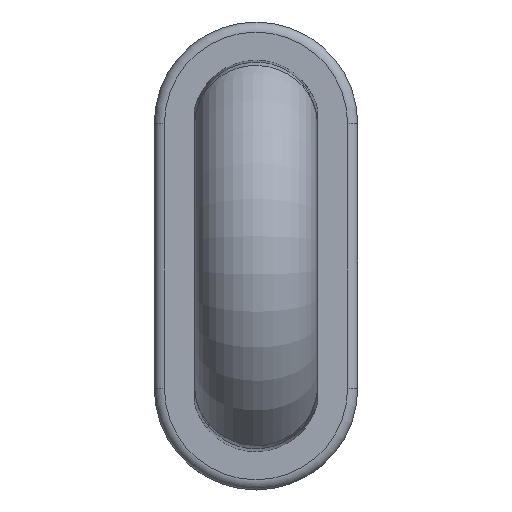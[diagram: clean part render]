
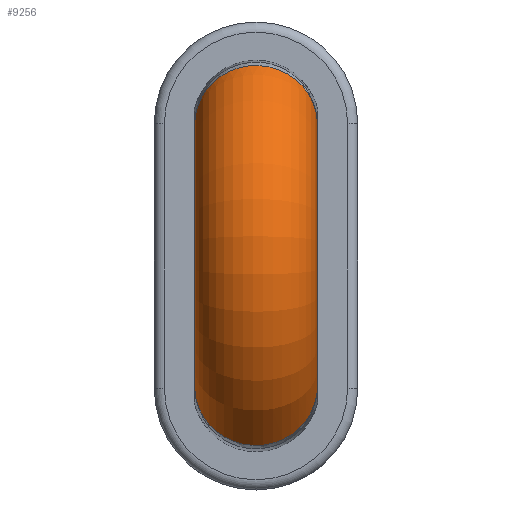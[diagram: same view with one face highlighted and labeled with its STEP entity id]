
A CAD part, top view. The second image highlights one B-rep face of the part: STEP entity #9256.
In plain terms, the highlighted toroidal (fillet/blend) face has major radius 8.2 mm and minor radius 3 mm.
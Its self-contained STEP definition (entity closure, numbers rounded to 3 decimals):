
#8000=CARTESIAN_POINT('',(-21.548,6.212,162.914));
#8142=CARTESIAN_POINT('',(-27.548,6.255,162.899));
#8240=CARTESIAN_POINT('',(-27.548,6.212,162.914));
#8241=CARTESIAN_POINT('',(-27.548,6.217,162.912));
#8242=CARTESIAN_POINT('',(-27.548,6.227,162.909));
#8243=CARTESIAN_POINT('',(-27.548,6.241,162.904));
#8244=CARTESIAN_POINT('',(-27.548,6.25,162.901));
#8245=CARTESIAN_POINT('',(-27.548,6.255,162.899));
#8247=CARTESIAN_POINT('',(-27.548,12.755,157.9));
#8248=DIRECTION('',(-1.,0.,0.));
#8249=DIRECTION('',(0.,-0.793,0.61));
#8250=AXIS2_PLACEMENT_3D('',#8247,#8248,#8249);
#8252=CARTESIAN_POINT('',(-27.548,19.255,162.899));
#8253=CARTESIAN_POINT('',(-27.548,19.26,162.901));
#8254=CARTESIAN_POINT('',(-27.548,19.269,162.904));
#8255=CARTESIAN_POINT('',(-27.548,19.284,162.909));
#8256=CARTESIAN_POINT('',(-27.548,19.293,162.912));
#8257=CARTESIAN_POINT('',(-27.548,19.298,162.914));
#8259=CARTESIAN_POINT('',(-21.548,19.298,162.914));
#8260=CARTESIAN_POINT('',(-21.548,19.293,162.912));
#8261=CARTESIAN_POINT('',(-21.548,19.284,162.909));
#8262=CARTESIAN_POINT('',(-21.548,19.269,162.904));
#8263=CARTESIAN_POINT('',(-21.548,19.26,162.901));
#8264=CARTESIAN_POINT('',(-21.548,19.255,162.899));
#8266=CARTESIAN_POINT('',(-21.548,12.755,157.9));
#8267=DIRECTION('',(1.,0.,0.));
#8268=DIRECTION('',(0.,0.793,0.61));
#8269=AXIS2_PLACEMENT_3D('',#8266,#8267,#8268);
#8271=CARTESIAN_POINT('',(-21.548,6.255,162.899));
#8272=CARTESIAN_POINT('',(-21.548,6.25,162.901));
#8273=CARTESIAN_POINT('',(-21.548,6.241,162.904));
#8274=CARTESIAN_POINT('',(-21.548,6.227,162.909));
#8275=CARTESIAN_POINT('',(-21.548,6.217,162.912));
#8276=CARTESIAN_POINT('',(-21.548,6.212,162.914));
#8278=CARTESIAN_POINT('',(-27.548,6.212,162.914));
#8279=CARTESIAN_POINT('',(-27.546,6.113,162.959));
#8280=CARTESIAN_POINT('',(-27.532,5.917,163.049));
#8281=CARTESIAN_POINT('',(-27.478,5.625,163.179));
#8282=CARTESIAN_POINT('',(-27.391,5.341,163.303));
#8283=CARTESIAN_POINT('',(-27.274,5.065,163.421));
#8284=CARTESIAN_POINT('',(-27.126,4.803,163.531));
#8285=CARTESIAN_POINT('',(-26.951,4.557,163.634));
#8286=CARTESIAN_POINT('',(-26.751,4.328,163.726));
#8287=CARTESIAN_POINT('',(-26.527,4.122,163.81));
#8288=CARTESIAN_POINT('',(-26.283,3.94,163.883));
#8289=CARTESIAN_POINT('',(-26.021,3.781,163.945));
#8290=CARTESIAN_POINT('',(-25.743,3.65,163.997));
#8291=CARTESIAN_POINT('',(-25.454,3.548,164.038));
#8292=CARTESIAN_POINT('',(-25.158,3.473,164.065));
#8293=CARTESIAN_POINT('',(-24.854,3.428,164.082));
#8294=CARTESIAN_POINT('',(-24.548,3.414,164.089));
#8295=CARTESIAN_POINT('',(-24.242,3.429,164.083));
#8296=CARTESIAN_POINT('',(-23.938,3.473,164.065));
#8297=CARTESIAN_POINT('',(-23.641,3.548,164.037));
#8298=CARTESIAN_POINT('',(-23.353,3.651,163.998));
#8299=CARTESIAN_POINT('',(-23.076,3.781,163.945));
#8300=CARTESIAN_POINT('',(-22.813,3.939,163.883));
#8301=CARTESIAN_POINT('',(-22.569,4.122,163.811));
#8302=CARTESIAN_POINT('',(-22.346,4.328,163.727));
#8303=CARTESIAN_POINT('',(-22.145,4.556,163.634));
#8304=CARTESIAN_POINT('',(-21.97,4.803,163.532));
#8305=CARTESIAN_POINT('',(-21.822,5.065,163.421));
#8306=CARTESIAN_POINT('',(-21.705,5.34,163.303));
#8307=CARTESIAN_POINT('',(-21.618,5.625,163.179));
#8308=CARTESIAN_POINT('',(-21.564,5.917,163.049));
#8309=CARTESIAN_POINT('',(-21.55,6.114,162.959));
#8310=CARTESIAN_POINT('',(-21.548,6.212,162.914));
#8312=CARTESIAN_POINT('',(-21.548,19.298,162.914));
#8313=CARTESIAN_POINT('',(-21.55,19.397,162.959));
#8314=CARTESIAN_POINT('',(-21.564,19.593,163.049));
#8315=CARTESIAN_POINT('',(-21.618,19.885,163.179));
#8316=CARTESIAN_POINT('',(-21.705,20.169,163.303));
#8317=CARTESIAN_POINT('',(-21.822,20.445,163.421));
#8318=CARTESIAN_POINT('',(-21.969,20.707,163.531));
#8319=CARTESIAN_POINT('',(-22.145,20.954,163.634));
#8320=CARTESIAN_POINT('',(-22.345,21.182,163.726));
#8321=CARTESIAN_POINT('',(-22.569,21.388,163.81));
#8322=CARTESIAN_POINT('',(-22.813,21.57,163.883));
#8323=CARTESIAN_POINT('',(-23.075,21.729,163.945));
#8324=CARTESIAN_POINT('',(-23.353,21.86,163.997));
#8325=CARTESIAN_POINT('',(-23.642,21.962,164.038));
#8326=CARTESIAN_POINT('',(-23.938,22.037,164.065));
#8327=CARTESIAN_POINT('',(-24.242,22.082,164.082));
#8328=CARTESIAN_POINT('',(-24.548,22.096,164.089));
#8329=CARTESIAN_POINT('',(-24.854,22.081,164.083));
#8330=CARTESIAN_POINT('',(-25.158,22.037,164.065));
#8331=CARTESIAN_POINT('',(-25.455,21.963,164.037));
#8332=CARTESIAN_POINT('',(-25.743,21.859,163.998));
#8333=CARTESIAN_POINT('',(-26.02,21.729,163.945));
#8334=CARTESIAN_POINT('',(-26.283,21.571,163.883));
#8335=CARTESIAN_POINT('',(-26.527,21.388,163.811));
#8336=CARTESIAN_POINT('',(-26.75,21.182,163.727));
#8337=CARTESIAN_POINT('',(-26.951,20.955,163.634));
#8338=CARTESIAN_POINT('',(-27.126,20.707,163.532));
#8339=CARTESIAN_POINT('',(-27.274,20.445,163.421));
#8340=CARTESIAN_POINT('',(-27.391,20.17,163.303));
#8341=CARTESIAN_POINT('',(-27.478,19.885,163.179));
#8342=CARTESIAN_POINT('',(-27.532,19.593,163.049));
#8343=CARTESIAN_POINT('',(-27.546,19.397,162.959));
#8344=CARTESIAN_POINT('',(-27.548,19.298,162.914));
#8559=VERTEX_POINT('',#8142);
#8561=VERTEX_POINT('',#8240);
#8562=VERTEX_POINT('',#8000);
#8563=VERTEX_POINT('',#8271);
#8568=CARTESIAN_POINT('',(-21.548,19.255,162.899));
#8569=VERTEX_POINT('',#8568);
#8577=CARTESIAN_POINT('',(-27.548,19.255,162.899));
#8578=VERTEX_POINT('',#8577);
#8579=VERTEX_POINT('',#8312);
#8580=VERTEX_POINT('',#8344);
#9239=CARTESIAN_POINT('',(-24.548,12.755,157.9));
#9240=DIRECTION('',(-1.,0.,0.));
#9241=DIRECTION('',(0.,-0.855,0.519));
#9242=AXIS2_PLACEMENT_3D('',#9239,#9240,#9241);
#9243=TOROIDAL_SURFACE('',#9242,8.2,3.);
#9245=ORIENTED_EDGE('',*,*,#9244,.F.);
#9246=ORIENTED_EDGE('',*,*,#8891,.T.);
#9247=ORIENTED_EDGE('',*,*,#9115,.T.);
#9248=ORIENTED_EDGE('',*,*,#9050,.T.);
#9250=ORIENTED_EDGE('',*,*,#9249,.F.);
#9251=ORIENTED_EDGE('',*,*,#9046,.T.);
#9252=ORIENTED_EDGE('',*,*,#9100,.T.);
#9253=ORIENTED_EDGE('',*,*,#8895,.T.);
#9254=EDGE_LOOP('',(#9245,#9246,#9247,#9248,#9250,#9251,#9252,#9253));
#9255=FACE_OUTER_BOUND('',#9254,.F.);
#9256=ADVANCED_FACE('',(#9255),#9243,.T.);
#8246=B_SPLINE_CURVE_WITH_KNOTS('',3,(#8240,#8241,#8242,#8243,#8244,#8245),
.UNSPECIFIED.,.F.,.F.,(4,1,1,4),(0.,0.333,0.667,1.),
.UNSPECIFIED.);
#8251=CIRCLE('',#8250,8.2);
#8258=B_SPLINE_CURVE_WITH_KNOTS('',3,(#8252,#8253,#8254,#8255,#8256,#8257),
.UNSPECIFIED.,.F.,.F.,(4,1,1,4),(0.,0.333,0.667,1.),
.UNSPECIFIED.);
#8265=B_SPLINE_CURVE_WITH_KNOTS('',3,(#8259,#8260,#8261,#8262,#8263,#8264),
.UNSPECIFIED.,.F.,.F.,(4,1,1,4),(0.,0.333,0.667,1.),
.UNSPECIFIED.);
#8270=CIRCLE('',#8269,8.2);
#8277=B_SPLINE_CURVE_WITH_KNOTS('',3,(#8271,#8272,#8273,#8274,#8275,#8276),
.UNSPECIFIED.,.F.,.F.,(4,1,1,4),(0.,0.333,0.667,1.),
.UNSPECIFIED.);
#8311=B_SPLINE_CURVE_WITH_KNOTS('',3,(#8278,#8279,#8280,#8281,#8282,#8283,#8284,
#8285,#8286,#8287,#8288,#8289,#8290,#8291,#8292,#8293,#8294,#8295,#8296,#8297,
#8298,#8299,#8300,#8301,#8302,#8303,#8304,#8305,#8306,#8307,#8308,#8309,#8310),
.UNSPECIFIED.,.F.,.F.,(4,1,1,1,1,1,1,1,1,1,1,1,1,1,1,1,1,1,1,1,1,1,1,1,1,1,1,1,
1,1,4),(0.,0.033,0.067,0.1,0.133,
0.167,0.2,0.233,0.267,0.3,
0.333,0.367,0.4,0.433,0.467,
0.5,0.533,0.567,0.6,0.633,
0.667,0.7,0.733,0.767,0.8,
0.833,0.867,0.9,0.933,0.967,
1.),.UNSPECIFIED.);
#8345=B_SPLINE_CURVE_WITH_KNOTS('',3,(#8312,#8313,#8314,#8315,#8316,#8317,#8318,
#8319,#8320,#8321,#8322,#8323,#8324,#8325,#8326,#8327,#8328,#8329,#8330,#8331,
#8332,#8333,#8334,#8335,#8336,#8337,#8338,#8339,#8340,#8341,#8342,#8343,#8344),
.UNSPECIFIED.,.F.,.F.,(4,1,1,1,1,1,1,1,1,1,1,1,1,1,1,1,1,1,1,1,1,1,1,1,1,1,1,1,
1,1,4),(0.,0.033,0.067,0.1,0.133,
0.167,0.2,0.233,0.267,0.3,
0.333,0.367,0.4,0.433,0.467,
0.5,0.533,0.567,0.6,0.633,
0.667,0.7,0.733,0.767,0.8,
0.833,0.867,0.9,0.933,0.967,
1.),.UNSPECIFIED.);
#8891=EDGE_CURVE('',#8561,#8559,#8246,.T.);
#8895=EDGE_CURVE('',#8563,#8562,#8277,.T.);
#9046=EDGE_CURVE('',#8579,#8569,#8265,.T.);
#9050=EDGE_CURVE('',#8578,#8580,#8258,.T.);
#9100=EDGE_CURVE('',#8569,#8563,#8270,.T.);
#9115=EDGE_CURVE('',#8559,#8578,#8251,.T.);
#9244=EDGE_CURVE('',#8561,#8562,#8311,.T.);
#9249=EDGE_CURVE('',#8579,#8580,#8345,.T.);
